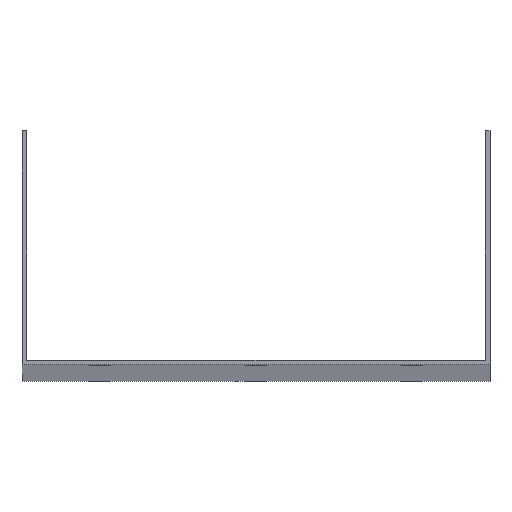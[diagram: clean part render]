
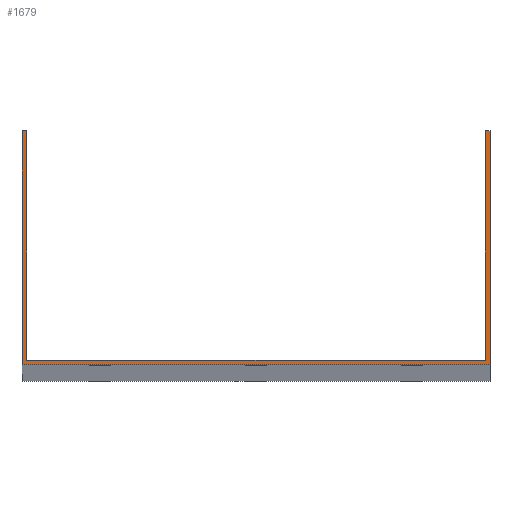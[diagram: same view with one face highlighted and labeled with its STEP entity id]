
A CAD part, top view. The second image highlights one B-rep face of the part: STEP entity #1679.
In plain terms, the highlighted planar face has unit normal (0, 0, 1).
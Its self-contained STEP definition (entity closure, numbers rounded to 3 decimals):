
#7 = CARTESIAN_POINT ( 'NONE',  ( 75., 75., 1500. ) ) ;
#111 = ORIENTED_EDGE ( 'NONE', *, *, #3675, .T. ) ;
#135 = CARTESIAN_POINT ( 'NONE',  ( 75., 75., 1500. ) ) ;
#145 = FACE_OUTER_BOUND ( 'NONE', #1370, .T. ) ;
#164 = LINE ( 'NONE', #1831, #3601 ) ;
#181 = CARTESIAN_POINT ( 'NONE',  ( -73.5, 75., 1500. ) ) ;
#210 = CARTESIAN_POINT ( 'NONE',  ( -75., 75., 1500. ) ) ;
#320 = CARTESIAN_POINT ( 'NONE',  ( -75., 0., 1500. ) ) ;
#349 = VERTEX_POINT ( 'NONE', #320 ) ;
#397 = CARTESIAN_POINT ( 'NONE',  ( 75., 0., 1500. ) ) ;
#467 = ORIENTED_EDGE ( 'NONE', *, *, #3104, .T. ) ;
#596 = VECTOR ( 'NONE', #3520, 1000. ) ;
#637 = DIRECTION ( 'NONE',  ( 1., 0., 0. ) ) ;
#679 = VERTEX_POINT ( 'NONE', #181 ) ;
#849 = DIRECTION ( 'NONE',  ( 1., 0., 0. ) ) ;
#881 = LINE ( 'NONE', #1812, #2705 ) ;
#905 = CARTESIAN_POINT ( 'NONE',  ( -75., 75., 1500. ) ) ;
#980 = CARTESIAN_POINT ( 'NONE',  ( -75., 75., 1500. ) ) ;
#1040 = VERTEX_POINT ( 'NONE', #397 ) ;
#1095 = CARTESIAN_POINT ( 'NONE',  ( 0., 0., 1500. ) ) ;
#1127 = EDGE_CURVE ( 'NONE', #1040, #2438, #1406, .T. ) ;
#1232 = CARTESIAN_POINT ( 'NONE',  ( -73.5, 75., 1500. ) ) ;
#1370 = EDGE_LOOP ( 'NONE', ( #4095, #2224, #3076, #111, #3569, #467, #2226, #3636 ) ) ;
#1406 = LINE ( 'NONE', #135, #1995 ) ;
#1521 = VECTOR ( 'NONE', #637, 1000. ) ;
#1535 = CARTESIAN_POINT ( 'NONE',  ( -75., 75., 1500. ) ) ;
#1547 = LINE ( 'NONE', #1232, #2525 ) ;
#1556 = CARTESIAN_POINT ( 'NONE',  ( 73.5, 75., 1500. ) ) ;
#1679 = ADVANCED_FACE ( 'NONE', ( #145 ), #3959, .T. ) ;
#1716 = VERTEX_POINT ( 'NONE', #2837 ) ;
#1798 = LINE ( 'NONE', #905, #3929 ) ;
#1812 = CARTESIAN_POINT ( 'NONE',  ( 73.5, 75., 1500. ) ) ;
#1831 = CARTESIAN_POINT ( 'NONE',  ( -75., 0., 1500. ) ) ;
#1853 = LINE ( 'NONE', #2214, #1521 ) ;
#1897 = VERTEX_POINT ( 'NONE', #2587 ) ;
#1995 = VECTOR ( 'NONE', #3967, 1000. ) ;
#2080 = DIRECTION ( 'NONE',  ( 0., 1., 0. ) ) ;
#2081 = DIRECTION ( 'NONE',  ( 0., -1., 0. ) ) ;
#2214 = CARTESIAN_POINT ( 'NONE',  ( -75., 1.5, 1500. ) ) ;
#2224 = ORIENTED_EDGE ( 'NONE', *, *, #2279, .T. ) ;
#2226 = ORIENTED_EDGE ( 'NONE', *, *, #2398, .F. ) ;
#2279 = EDGE_CURVE ( 'NONE', #679, #2883, #2890, .T. ) ;
#2398 = EDGE_CURVE ( 'NONE', #1897, #2966, #881, .T. ) ;
#2438 = VERTEX_POINT ( 'NONE', #7 ) ;
#2465 = EDGE_CURVE ( 'NONE', #1716, #1897, #1853, .T. ) ;
#2525 = VECTOR ( 'NONE', #2879, 1000. ) ;
#2587 = CARTESIAN_POINT ( 'NONE',  ( 73.5, 1.5, 1500. ) ) ;
#2705 = VECTOR ( 'NONE', #2080, 1000. ) ;
#2837 = CARTESIAN_POINT ( 'NONE',  ( -73.5, 1.5, 1500. ) ) ;
#2879 = DIRECTION ( 'NONE',  ( 0., -1., 0. ) ) ;
#2883 = VERTEX_POINT ( 'NONE', #1535 ) ;
#2890 = LINE ( 'NONE', #980, #596 ) ;
#2966 = VERTEX_POINT ( 'NONE', #1556 ) ;
#3076 = ORIENTED_EDGE ( 'NONE', *, *, #3564, .T. ) ;
#3104 = EDGE_CURVE ( 'NONE', #2438, #2966, #1798, .T. ) ;
#3131 = AXIS2_PLACEMENT_3D ( 'NONE', #1095, #3642, #849 ) ;
#3304 = EDGE_CURVE ( 'NONE', #679, #1716, #1547, .T. ) ;
#3360 = DIRECTION ( 'NONE',  ( -1., 0., 0. ) ) ;
#3373 = LINE ( 'NONE', #210, #3872 ) ;
#3520 = DIRECTION ( 'NONE',  ( -1., 0., 0. ) ) ;
#3564 = EDGE_CURVE ( 'NONE', #2883, #349, #3373, .T. ) ;
#3569 = ORIENTED_EDGE ( 'NONE', *, *, #1127, .T. ) ;
#3601 = VECTOR ( 'NONE', #3669, 1000. ) ;
#3636 = ORIENTED_EDGE ( 'NONE', *, *, #2465, .F. ) ;
#3642 = DIRECTION ( 'NONE',  ( 0., 0., 1. ) ) ;
#3669 = DIRECTION ( 'NONE',  ( 1., 0., 0. ) ) ;
#3675 = EDGE_CURVE ( 'NONE', #349, #1040, #164, .T. ) ;
#3872 = VECTOR ( 'NONE', #2081, 1000. ) ;
#3929 = VECTOR ( 'NONE', #3360, 1000. ) ;
#3959 = PLANE ( 'NONE',  #3131 ) ;
#3967 = DIRECTION ( 'NONE',  ( 0., 1., 0. ) ) ;
#4095 = ORIENTED_EDGE ( 'NONE', *, *, #3304, .F. ) ;
